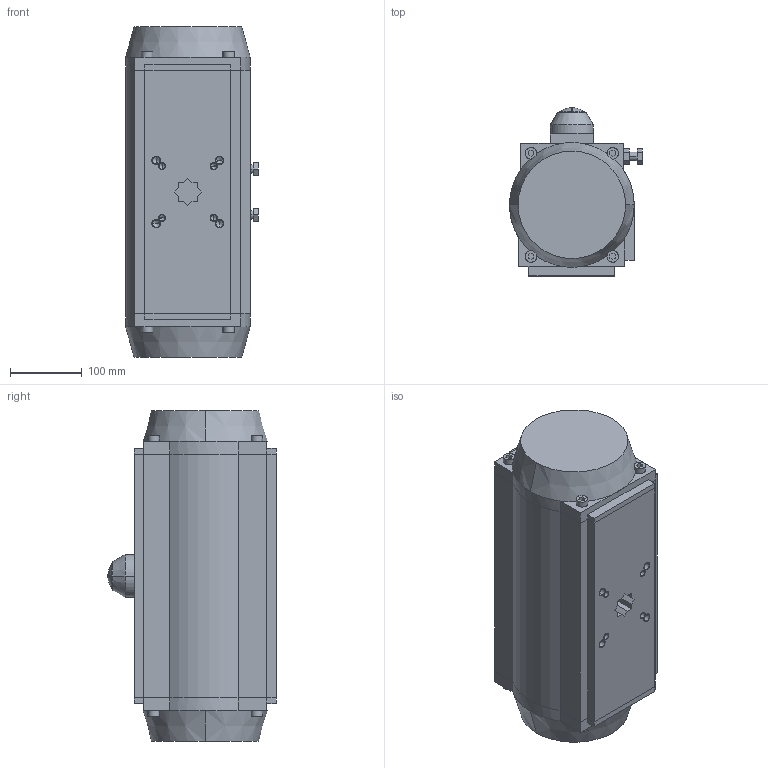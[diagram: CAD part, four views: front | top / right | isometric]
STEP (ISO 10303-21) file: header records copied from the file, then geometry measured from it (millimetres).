
FILE_DESCRIPTION((''),'2;1');
FILE_NAME('SB_PNEVMOPRIVOD_ASM','2024-02-03T',('DIMA'),(''),'PRO/ENGINEER BY PARAMETRIC TECHNOLOGY CORPORATION, 2008020','PRO/ENGINEER BY PARAMETRIC TECHNOLOGY CORPORATION, 2008020','');
FILE_SCHEMA(('CONFIG_CONTROL_DESIGN'));
Length unit declared in the file: millimetre
Products named in the file (7): KORPUS; KOLCO_40_GOST13942; KRISKA_VERX; VINT; KRISKA_LEFT; KRISKA_RIGHT; SB_PNEVMOPRIVOD_ASM
Assembly tree (6 placements, depth 2):
  SB_PNEVMOPRIVOD_ASM
    KORPUS
    KOLCO_40_GOST13942
    KRISKA_VERX
    VINT
    KRISKA_LEFT
    KRISKA_RIGHT
Bounding box: 185.5 x 234.96 x 462 mm (x, y, z)
Volume: 12947273.2 mm3; surface area: 523233.8 mm2
Topology: 6 solids, 32 shells, 450 faces, 1158 edges, 743 vertices
Faces by surface type: plane 248, cylinder 146, cone 54, sphere 2
Entity records: 13629 total; most frequent: CARTESIAN_POINT 2441, DIRECTION 2418, ORIENTED_EDGE 2116, EDGE_CURVE 1112, AXIS2_PLACEMENT_3D 863, VERTEX_POINT 743, VECTOR 692, LINE 692
